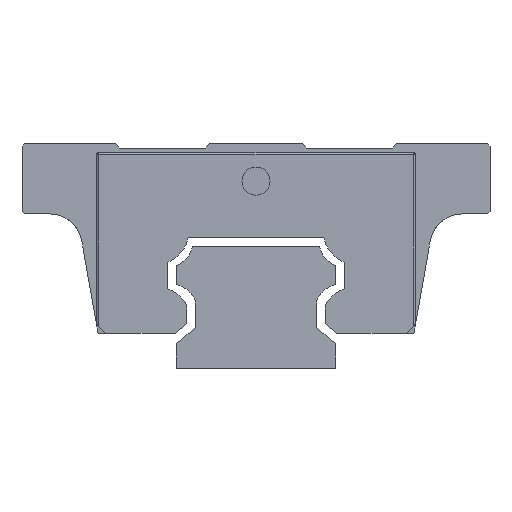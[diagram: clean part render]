
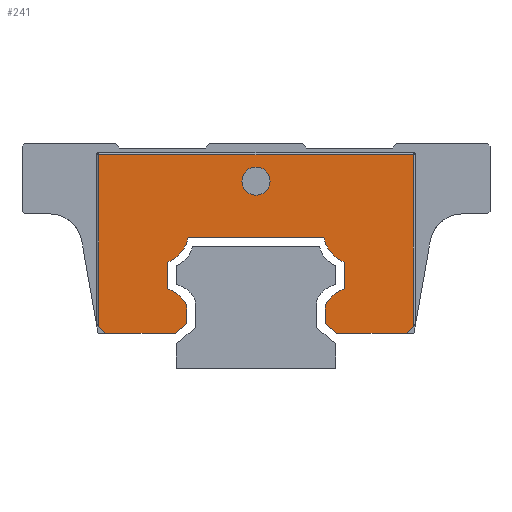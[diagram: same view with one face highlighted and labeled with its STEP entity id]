
A CAD part, left-side view. The second image highlights one B-rep face of the part: STEP entity #241.
In plain terms, the highlighted planar face has unit normal (-1, 0, 0).
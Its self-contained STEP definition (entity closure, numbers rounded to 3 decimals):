
#47=FACE_BOUND('',#568,.T.);
#48=FACE_BOUND('',#569,.T.);
#241=ADVANCED_FACE('',(#47,#48),#381,.T.);
#381=PLANE('',#2538);
#568=EDGE_LOOP('',(#1281));
#569=EDGE_LOOP('',(#1282,#1283,#1284,#1285,#1286,#1287,#1288,#1289,#1290,
#1291,#1292,#1293,#1294,#1295,#1296,#1297,#1298,#1299));
#764=LINE('',#3528,#976);
#770=LINE('',#3544,#982);
#773=LINE('',#3550,#985);
#780=LINE('',#3564,#992);
#781=LINE('',#3574,#993);
#794=LINE('',#3601,#1006);
#803=LINE('',#3621,#1015);
#806=LINE('',#3627,#1018);
#811=LINE('',#3636,#1023);
#819=LINE('',#3653,#1031);
#826=LINE('',#3668,#1038);
#827=LINE('',#3672,#1039);
#828=LINE('',#3674,#1040);
#829=LINE('',#3676,#1041);
#976=VECTOR('',#2793,1.);
#982=VECTOR('',#2807,1.);
#985=VECTOR('',#2812,1.);
#992=VECTOR('',#2821,1.);
#993=VECTOR('',#2826,1.);
#1006=VECTOR('',#2847,1.);
#1015=VECTOR('',#2860,1.);
#1018=VECTOR('',#2865,1.);
#1023=VECTOR('',#2872,1.);
#1031=VECTOR('',#2886,1.);
#1038=VECTOR('',#2899,1.);
#1039=VECTOR('',#2904,1.);
#1040=VECTOR('',#2905,1.);
#1041=VECTOR('',#2906,1.);
#1281=ORIENTED_EDGE('',*,*,#2148,.F.);
#1282=ORIENTED_EDGE('',*,*,#2099,.T.);
#1283=ORIENTED_EDGE('',*,*,#2149,.T.);
#1284=ORIENTED_EDGE('',*,*,#2150,.T.);
#1285=ORIENTED_EDGE('',*,*,#2151,.T.);
#1286=ORIENTED_EDGE('',*,*,#2112,.T.);
#1287=ORIENTED_EDGE('',*,*,#2122,.T.);
#1288=ORIENTED_EDGE('',*,*,#2125,.T.);
#1289=ORIENTED_EDGE('',*,*,#2130,.T.);
#1290=ORIENTED_EDGE('',*,*,#2132,.T.);
#1291=ORIENTED_EDGE('',*,*,#2139,.T.);
#1292=ORIENTED_EDGE('',*,*,#2141,.T.);
#1293=ORIENTED_EDGE('',*,*,#2147,.T.);
#1294=ORIENTED_EDGE('',*,*,#2070,.T.);
#1295=ORIENTED_EDGE('',*,*,#2078,.T.);
#1296=ORIENTED_EDGE('',*,*,#2081,.T.);
#1297=ORIENTED_EDGE('',*,*,#2086,.T.);
#1298=ORIENTED_EDGE('',*,*,#2089,.T.);
#1299=ORIENTED_EDGE('',*,*,#2096,.T.);
#1847=VERTEX_POINT('',#3511);
#1848=VERTEX_POINT('',#3513);
#1854=VERTEX_POINT('',#3527);
#1856=VERTEX_POINT('',#3533);
#1860=VERTEX_POINT('',#3543);
#1862=VERTEX_POINT('',#3549);
#1868=VERTEX_POINT('',#3563);
#1871=VERTEX_POINT('',#3573);
#1882=VERTEX_POINT('',#3602);
#1883=VERTEX_POINT('',#3603);
#1890=VERTEX_POINT('',#3620);
#1892=VERTEX_POINT('',#3626);
#1895=VERTEX_POINT('',#3635);
#1896=VERTEX_POINT('',#3639);
#1901=VERTEX_POINT('',#3652);
#1902=VERTEX_POINT('',#3656);
#1907=VERTEX_POINT('',#3671);
#1908=VERTEX_POINT('',#3673);
#1909=VERTEX_POINT('',#3675);
#2070=EDGE_CURVE('',#1848,#1847,#2398,.T.);
#2078=EDGE_CURVE('',#1847,#1854,#764,.T.);
#2081=EDGE_CURVE('',#1854,#1856,#2400,.T.);
#2086=EDGE_CURVE('',#1856,#1860,#770,.T.);
#2089=EDGE_CURVE('',#1860,#1862,#773,.T.);
#2096=EDGE_CURVE('',#1862,#1868,#780,.T.);
#2099=EDGE_CURVE('',#1868,#1871,#781,.T.);
#2112=EDGE_CURVE('',#1882,#1883,#794,.T.);
#2122=EDGE_CURVE('',#1883,#1890,#803,.T.);
#2125=EDGE_CURVE('',#1890,#1892,#806,.T.);
#2130=EDGE_CURVE('',#1892,#1895,#811,.T.);
#2132=EDGE_CURVE('',#1895,#1896,#2401,.T.);
#2139=EDGE_CURVE('',#1896,#1901,#819,.T.);
#2141=EDGE_CURVE('',#1901,#1902,#2402,.T.);
#2147=EDGE_CURVE('',#1902,#1848,#826,.T.);
#2148=EDGE_CURVE('',#1907,#1907,#2403,.T.);
#2149=EDGE_CURVE('',#1871,#1908,#827,.T.);
#2150=EDGE_CURVE('',#1908,#1909,#828,.T.);
#2151=EDGE_CURVE('',#1909,#1882,#829,.T.);
#2398=CIRCLE('',#2512,7.435);
#2400=CIRCLE('',#2516,7.435);
#2401=CIRCLE('',#2531,7.435);
#2402=CIRCLE('',#2534,7.435);
#2403=CIRCLE('',#2537,3.);
#2512=AXIS2_PLACEMENT_3D('',#3512,#2782,#2783);
#2516=AXIS2_PLACEMENT_3D('',#3534,#2799,#2800);
#2531=AXIS2_PLACEMENT_3D('',#3640,#2876,#2877);
#2534=AXIS2_PLACEMENT_3D('',#3657,#2890,#2891);
#2537=AXIS2_PLACEMENT_3D('',#3670,#2902,#2903);
#2538=AXIS2_PLACEMENT_3D('',#3677,#2907,#2908);
#2782=DIRECTION('',(-1.,0.,0.));
#2783=DIRECTION('',(0.,1.,0.));
#2793=DIRECTION('',(0.,0.,-1.));
#2799=DIRECTION('',(-1.,0.,0.));
#2800=DIRECTION('',(0.,1.,0.));
#2807=DIRECTION('',(0.,0.,-1.));
#2812=DIRECTION('',(0.,-0.766,-0.643));
#2821=DIRECTION('',(0.,-1.,0.));
#2826=DIRECTION('',(0.,-0.707,0.707));
#2847=DIRECTION('',(0.,-0.707,-0.707));
#2860=DIRECTION('',(0.,-1.,0.));
#2865=DIRECTION('',(0.,-0.766,0.643));
#2872=DIRECTION('',(0.,0.,1.));
#2876=DIRECTION('',(-1.,0.,0.));
#2877=DIRECTION('',(0.,-1.,0.));
#2886=DIRECTION('',(0.,0.,1.));
#2890=DIRECTION('',(-1.,0.,0.));
#2891=DIRECTION('',(0.,-1.,0.));
#2899=DIRECTION('',(0.,-1.,0.));
#2902=DIRECTION('',(-1.,0.,0.));
#2903=DIRECTION('',(0.,1.,0.));
#2904=DIRECTION('',(0.,0.,1.));
#2905=DIRECTION('',(0.,1.,0.));
#2906=DIRECTION('',(0.,0.,-1.));
#2907=DIRECTION('',(-1.,0.,0.));
#2908=DIRECTION('',(0.,0.,1.));
#3511=CARTESIAN_POINT('',(-54.5,-18.875,22.63));
#3512=CARTESIAN_POINT('',(-54.5,-21.731,29.495));
#3513=CARTESIAN_POINT('',(-54.5,-14.474,27.875));
#3527=CARTESIAN_POINT('',(-54.5,-18.875,16.97));
#3528=CARTESIAN_POINT('',(-54.5,-18.875,22.63));
#3533=CARTESIAN_POINT('',(-54.5,-14.823,13.57));
#3534=CARTESIAN_POINT('',(-54.5,-21.316,9.947));
#3543=CARTESIAN_POINT('',(-54.5,-14.823,9.541));
#3544=CARTESIAN_POINT('',(-54.5,-14.823,13.57));
#3549=CARTESIAN_POINT('',(-54.5,-17.255,7.5));
#3550=CARTESIAN_POINT('',(-54.5,-14.823,9.541));
#3563=CARTESIAN_POINT('',(-54.5,-32.102,7.5));
#3564=CARTESIAN_POINT('',(-54.5,-17.255,7.5));
#3573=CARTESIAN_POINT('',(-54.5,-33.608,9.006));
#3574=CARTESIAN_POINT('',(-54.5,-32.102,7.5));
#3601=CARTESIAN_POINT('',(-54.5,34.108,9.5));
#3602=CARTESIAN_POINT('',(-54.5,33.608,9.));
#3603=CARTESIAN_POINT('',(-54.5,32.108,7.5));
#3620=CARTESIAN_POINT('',(-54.5,17.255,7.5));
#3621=CARTESIAN_POINT('',(-54.5,32.108,7.5));
#3626=CARTESIAN_POINT('',(-54.5,14.823,9.541));
#3627=CARTESIAN_POINT('',(-54.5,17.255,7.5));
#3635=CARTESIAN_POINT('',(-54.5,14.823,13.57));
#3636=CARTESIAN_POINT('',(-54.5,14.823,9.541));
#3639=CARTESIAN_POINT('',(-54.5,18.875,16.97));
#3640=CARTESIAN_POINT('',(-54.5,21.316,9.947));
#3652=CARTESIAN_POINT('',(-54.5,18.875,22.63));
#3653=CARTESIAN_POINT('',(-54.5,18.875,16.97));
#3656=CARTESIAN_POINT('',(-54.5,14.474,27.875));
#3657=CARTESIAN_POINT('',(-54.5,21.731,29.495));
#3668=CARTESIAN_POINT('',(-54.5,14.474,27.875));
#3670=CARTESIAN_POINT('',(-54.5,0.,40.));
#3671=CARTESIAN_POINT('',(-54.5,3.,40.));
#3672=CARTESIAN_POINT('',(-54.5,-33.608,46.125));
#3673=CARTESIAN_POINT('',(-54.5,-33.608,45.625));
#3674=CARTESIAN_POINT('',(-54.5,34.108,45.625));
#3675=CARTESIAN_POINT('',(-54.5,33.608,45.625));
#3676=CARTESIAN_POINT('',(-54.5,33.608,9.5));
#3677=CARTESIAN_POINT('',(-54.5,-21.731,29.495));
